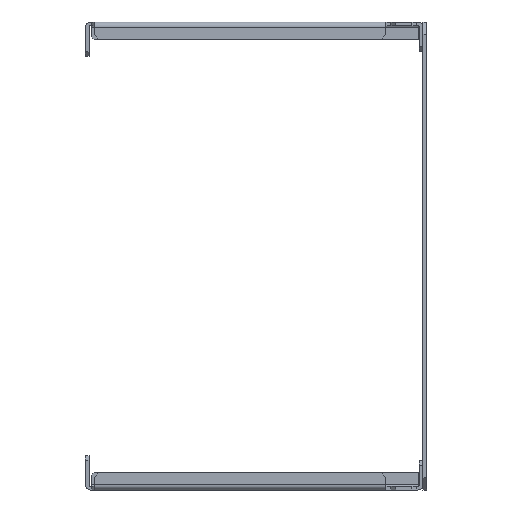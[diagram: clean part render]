
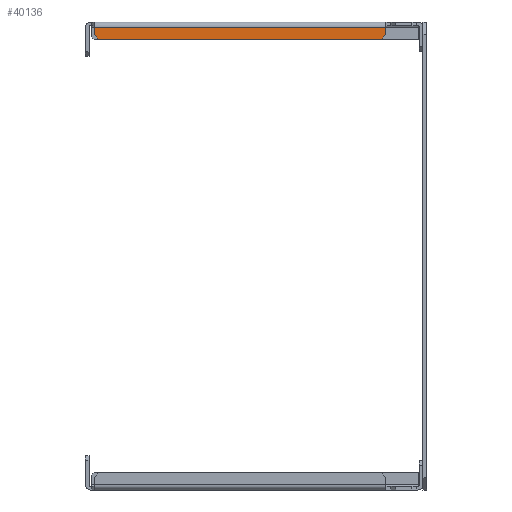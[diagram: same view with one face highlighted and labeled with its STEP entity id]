
A CAD part, left-side view. The second image highlights one B-rep face of the part: STEP entity #40136.
In plain terms, the highlighted planar face has unit normal (-1, 0, 0).
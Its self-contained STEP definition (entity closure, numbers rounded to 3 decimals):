
#25676=CARTESIAN_POINT(' ',(-95.5,65.,-0.6));
#25677=VERTEX_POINT(' ',#25676);
#25691=CARTESIAN_POINT(' ',(-95.5,-53.5,-0.6));
#25696=DIRECTION(' ',(0.,1.,0.));
#25701=VECTOR(' ',#25696,1.);
#25706=LINE('',#25691,#25701);
#25711=CARTESIAN_POINT(' ',(-95.5,-53.5,-0.6));
#25712=VERTEX_POINT(' ',#25711);
#25716=EDGE_CURVE(' ',#25712,#25677,#25706,.T.);
#25921=CARTESIAN_POINT(' ',(-95.5,-53.5,-0.6));
#25926=DIRECTION(' ',(0.,0.,-1.));
#25931=VECTOR(' ',#25926,1.);
#25936=LINE('',#25921,#25931);
#25941=CARTESIAN_POINT(' ',(-95.5,-53.5,-3.5));
#25942=VERTEX_POINT(' ',#25941);
#25946=EDGE_CURVE(' ',#25712,#25942,#25936,.T.);
#39956=DIRECTION(' ',(-1.,-0.,0.));
#39961=CARTESIAN_POINT(' ',(-95.5,65.,-5.5));
#39966=DIRECTION(' ',(0.,-1.,0.));
#39971=AXIS2_PLACEMENT_3D(' ',#39961,#39956,#39966);
#39976=PLANE('NONE',#39971);
#39981=ORIENTED_EDGE(' ',*,*,#25946,.F.);
#39986=ORIENTED_EDGE(' ',*,*,#25716,.T.);
#39991=CARTESIAN_POINT(' ',(-95.5,65.,-3.5));
#39996=DIRECTION(' ',(0.,0.,1.));
#40001=VECTOR(' ',#39996,1.);
#40006=LINE('',#39991,#40001);
#40011=CARTESIAN_POINT(' ',(-95.5,65.,-3.5));
#40012=VERTEX_POINT(' ',#40011);
#40016=EDGE_CURVE(' ',#40012,#25677,#40006,.T.);
#40021=ORIENTED_EDGE(' ',*,*,#40016,.F.);
#40026=CARTESIAN_POINT(' ',(-95.5,63.,-5.5));
#40031=DIRECTION(' ',(0.,0.707,0.707));
#40036=VECTOR(' ',#40031,1.);
#40041=LINE('',#40026,#40036);
#40046=CARTESIAN_POINT(' ',(-95.5,63.,-5.5));
#40047=VERTEX_POINT(' ',#40046);
#40051=EDGE_CURVE(' ',#40047,#40012,#40041,.T.);
#40056=ORIENTED_EDGE(' ',*,*,#40051,.F.);
#40061=CARTESIAN_POINT(' ',(-95.5,-51.5,-5.5));
#40066=DIRECTION(' ',(0.,1.,0.));
#40071=VECTOR(' ',#40066,1.);
#40076=LINE('',#40061,#40071);
#40081=CARTESIAN_POINT(' ',(-95.5,-51.5,-5.5));
#40082=VERTEX_POINT(' ',#40081);
#40086=EDGE_CURVE(' ',#40082,#40047,#40076,.T.);
#40091=ORIENTED_EDGE(' ',*,*,#40086,.F.);
#40096=CARTESIAN_POINT(' ',(-95.5,-53.5,-3.5));
#40101=DIRECTION(' ',(0.,0.707,-0.707));
#40106=VECTOR(' ',#40101,1.);
#40111=LINE('',#40096,#40106);
#40116=EDGE_CURVE(' ',#25942,#40082,#40111,.T.);
#40121=ORIENTED_EDGE(' ',*,*,#40116,.F.);
#40126=EDGE_LOOP(' ',(#39981,#39986,#40021,#40056,#40091,#40121));
#40131=FACE_OUTER_BOUND(' ',#40126,.T.);
#40136=ADVANCED_FACE('NONE',(#40131),#39976,.T.);
